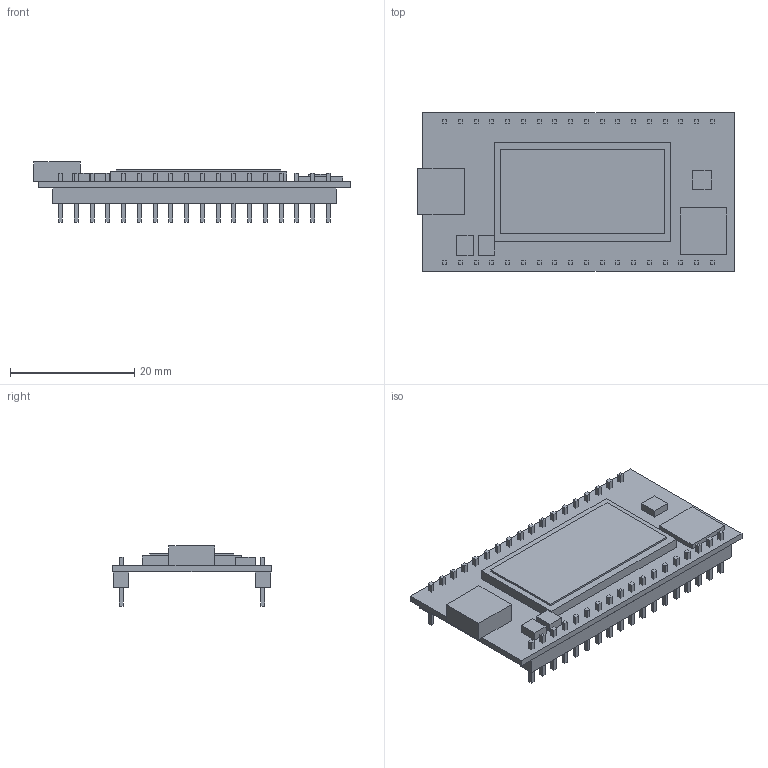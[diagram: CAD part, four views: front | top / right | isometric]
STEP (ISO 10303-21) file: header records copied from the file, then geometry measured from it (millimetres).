
FILE_DESCRIPTION(('Open CASCADE Model'),'2;1');
FILE_NAME('Open CASCADE Shape Model','2026-10-08T02:56:02',('Author'),( 'Open CASCADE'),'Open CASCADE STEP processor 7.9','Open CASCADE 7.9' ,'Unknown');
FILE_SCHEMA(('AUTOMOTIVE_DESIGN { 1 0 10303 214 1 1 1 1 }'));
Length unit declared in the file: millimetre
Products named in the file (13): Heltec_WiFi_LoRa_32_V3; pcb; b21b1144-c295-11f1-a966-02fc00000001; b24901d0-c295-11f1-a966-02fc00000001; b2496378-c295-11f1-a966-02fc00000001; b2742e3c-c295-11f1-a966-02fc00000001; oled_frame; oled_glass; usb_c; ipex; rf_shield; b2763efc-c295-11f1-a966-02fc00000001; b276974e-c295-11f1-a966-02fc00000001
Assembly tree (12 placements, depth 2):
  Heltec_WiFi_LoRa_32_V3
    pcb
    b21b1144-c295-11f1-a966-02fc00000001
    b24901d0-c295-11f1-a966-02fc00000001
    b2496378-c295-11f1-a966-02fc00000001
    b2742e3c-c295-11f1-a966-02fc00000001
    oled_frame
    oled_glass
    usb_c
    ipex
    rf_shield
    b2763efc-c295-11f1-a966-02fc00000001
    b276974e-c295-11f1-a966-02fc00000001
Bounding box: 51 x 25.5 x 9.7 mm (x, y, z)
Volume: 3070.9 mm3; surface area: 6655 mm2
Topology: 46 solids, 46 shells, 276 faces, 552 edges, 368 vertices
Faces by surface type: plane 276
Entity records: 14648 total; most frequent: CARTESIAN_POINT 2313, DIRECTION 2234, LINE 1656, VECTOR 1656, ORIENTED_EDGE 1104, PCURVE 1104, DEFINITIONAL_REPRESENTATION 1104, EDGE_CURVE 552
